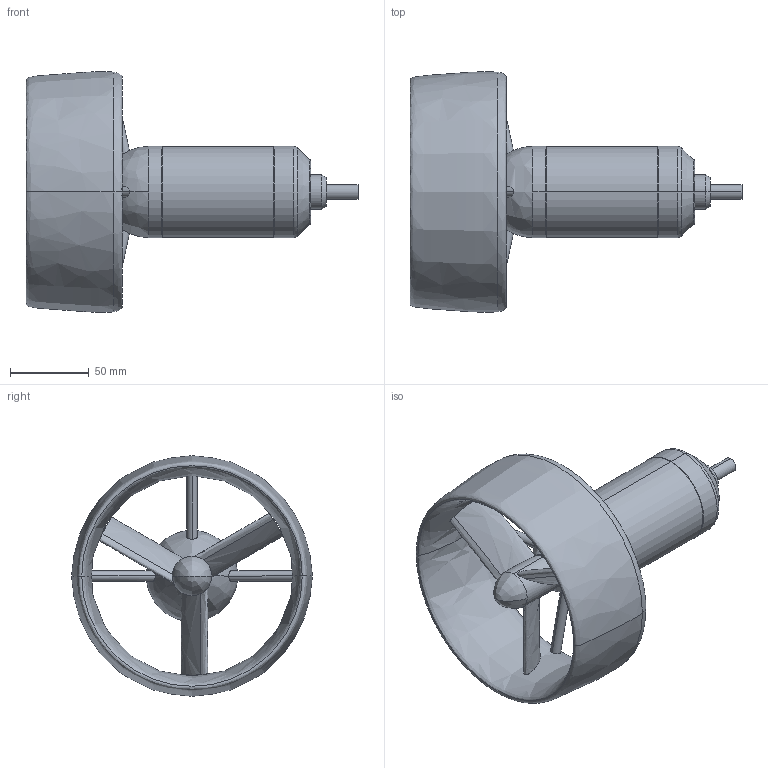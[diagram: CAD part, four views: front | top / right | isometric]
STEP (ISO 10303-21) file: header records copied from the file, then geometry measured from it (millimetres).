
FILE_DESCRIPTION (( 'STEP AP214' ), '1' );
FILE_NAME ('DW25阨狟芢輛ん俋倛芞.STEP', '2024-04-09T05:49:34', ( '' ), ( '' ), 'SwSTEP 2.0', 'SolidWorks 2022', '' );
FILE_SCHEMA (( 'AUTOMOTIVE_DESIGN' ));
Length unit declared in the file: millimetre
Products named in the file (1): DW25水下推进器外形图
Bounding box: 211.1 x 153.09 x 153.02 mm (x, y, z)
Volume: 636696.2 mm3; surface area: 101178.1 mm2
Topology: 1 solids, 1 shells, 57 faces, 134 edges, 79 vertices
Faces by surface type: cylinder 26, bspline 14, cone 8, plane 5, torus 4
Entity records: 4787 total; most frequent: CARTESIAN_POINT 3544, ORIENTED_EDGE 264, DIRECTION 226, EDGE_CURVE 132, AXIS2_PLACEMENT_3D 94, VERTEX_POINT 79, EDGE_LOOP 67, FACE_OUTER_BOUND 57
